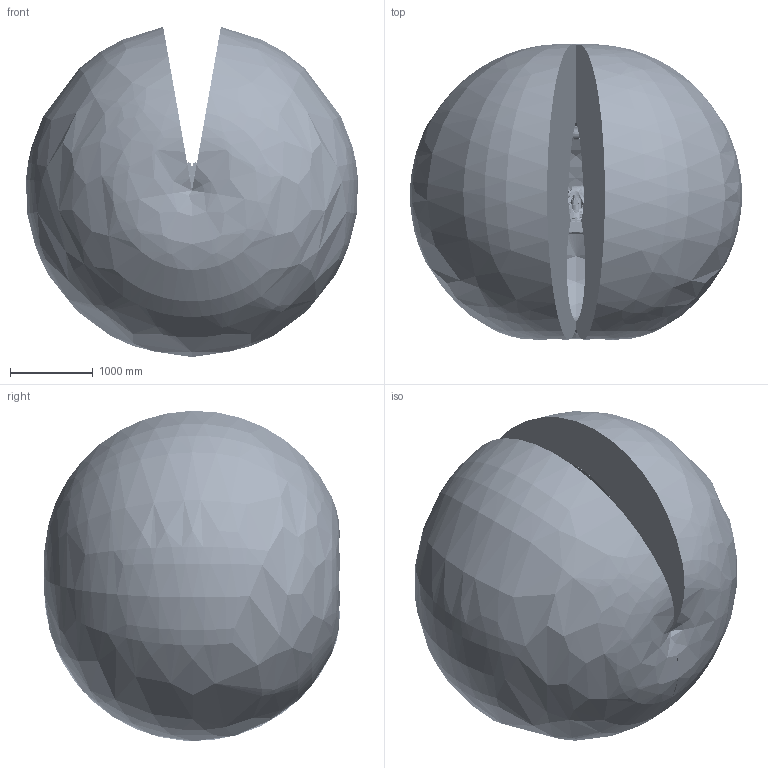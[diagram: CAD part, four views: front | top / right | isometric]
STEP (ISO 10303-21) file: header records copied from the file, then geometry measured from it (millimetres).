
FILE_DESCRIPTION((''),'2;1');
FILE_NAME('R6-2000H_ASM','2025-07-09T08:10:34',('Administrator'),(''),'CREO PARAMETRIC BY PTC INC, 2018260','CREO PARAMETRIC BY PTC INC, 2018260','');
FILE_SCHEMA(('CONFIG_CONTROL_DESIGN','SHAPE_APPEARANCE_LAYERS_GROUPS'));
Products named in the file (11): R6-2000H_BASE; R6-2000H_JOINT1; R6-2000H_JOINT2; R6-2000H_JOINT3; R6-2000H_JOINT4; R6-2000H_JOINT5; R6-2000H_JOINT6; R6-2000H_CABLE; R6-2000H_RANGE; R6-2000H_RANGE_2; R6-2000H_ASM
Assembly tree (10 placements, depth 2):
  R6-2000H_ASM
    R6-2000H_BASE
    R6-2000H_JOINT1
    R6-2000H_JOINT2
    R6-2000H_JOINT3
    R6-2000H_JOINT4
    R6-2000H_JOINT5
    R6-2000H_JOINT6
    R6-2000H_CABLE
    R6-2000H_RANGE
    R6-2000H_RANGE_2
Bounding box: 4018.13 x 3576.55 x 3997.56 mm (x, y, z)
Volume: 28640215794.6 mm3; surface area: 79106864.1 mm2
Topology: 10 solids, 39 shells, 14396 faces, 35341 edges, 21259 vertices
Faces by surface type: cylinder 4435, plane 3988, bspline 3062, torus 1881, cone 618, sphere 400, extrusion 12
Entity records: 613915 total; most frequent: CARTESIAN_POINT 264639, ORIENTED_EDGE 70082, DIRECTION 63874, EDGE_CURVE 35041, AXIS2_PLACEMENT_3D 25325, VERTEX_POINT 21258, EDGE_LOOP 15169, FACE_OUTER_BOUND 14396
